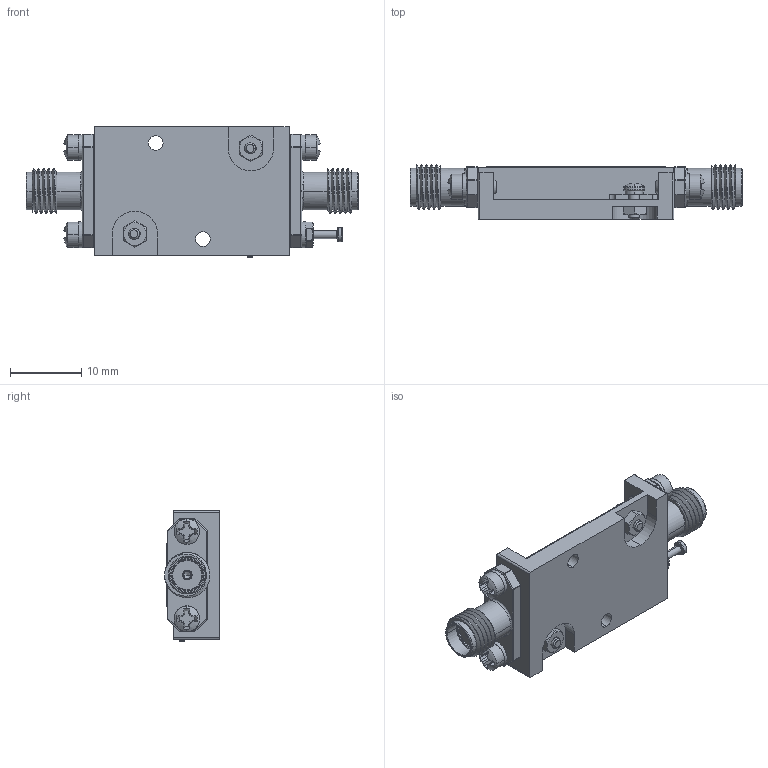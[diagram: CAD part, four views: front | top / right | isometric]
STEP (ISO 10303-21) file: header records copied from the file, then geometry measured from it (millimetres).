
FILE_DESCRIPTION (( 'STEP AP214' ), '1' );
FILE_NAME ('27352820 3D MODEL.STEP', '2025-09-03T20:16:25', ( '' ), ( '' ), 'SwSTEP 2.0', 'SolidWorks 2024', '' );
FILE_SCHEMA (( 'AUTOMOTIVE_DESIGN' ));
Length unit declared in the file: inch
Products named in the file (1): 27352820 3D MODEL
Bounding box: 46.48 x 7.68 x 18.29 mm (x, y, z)
Volume: 3214.5 mm3; surface area: 4985.8 mm2
Topology: 27 solids, 27 shells, 1041 faces, 3356 edges, 2477 vertices
Faces by surface type: plane 394, cylinder 315, torus 131, cone 110, sphere 71, bspline 20
Entity records: 56854 total; most frequent: CARTESIAN_POINT 13962, ORIENTED_EDGE 6596, DIRECTION 5724, EDGE_CURVE 3298, VERTEX_POINT 2473, AXIS2_PLACEMENT_3D 2093, VECTOR 1538, LINE 1538
